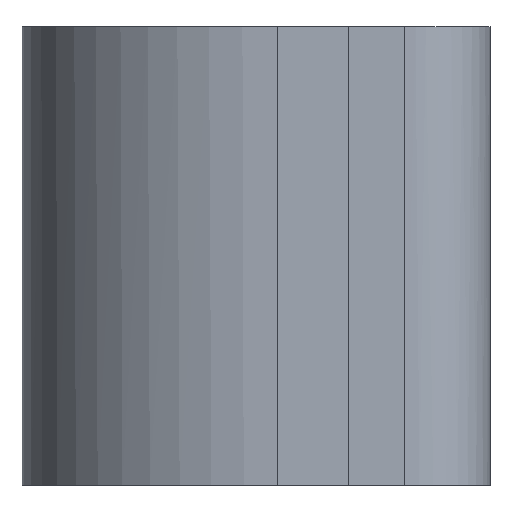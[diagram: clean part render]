
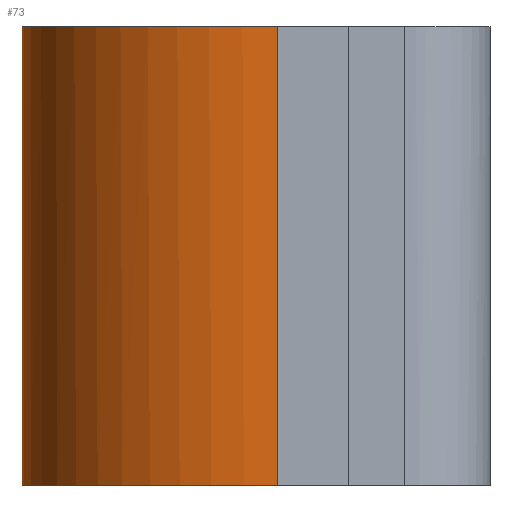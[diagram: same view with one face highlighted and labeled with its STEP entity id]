
A CAD part, left-side view. The second image highlights one B-rep face of the part: STEP entity #73.
In plain terms, the highlighted free-form (B-spline) face has degree [3, 1] with [4, 2] control points.
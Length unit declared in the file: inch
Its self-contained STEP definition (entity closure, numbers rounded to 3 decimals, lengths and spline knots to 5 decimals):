
#73=ADVANCED_FACE('',(#145),#146,.T.);
#145=FACE_OUTER_BOUND('',#270,.T.);
#146=B_SPLINE_SURFACE_WITH_KNOTS('',3,1,((#271,#272),(#273,#274),(#275,#276),(#277,#278)),.UNSPECIFIED.,.F.,.F.,.F.,(4,4),(2,2),(0.0,1.0),(0.0,0.8125),.UNSPECIFIED.);
#270=EDGE_LOOP('',(#412,#413,#414,#415));
#271=CARTESIAN_POINT('',(0.45208,0.57765,0.0));
#272=CARTESIAN_POINT('',(0.45208,0.57765,0.8125));
#273=CARTESIAN_POINT('',(0.2024,0.57765,0.0));
#274=CARTESIAN_POINT('',(0.2024,0.57765,0.8125));
#275=CARTESIAN_POINT('',(0.0,0.37526,0.0));
#276=CARTESIAN_POINT('',(0.0,0.37526,0.8125));
#277=CARTESIAN_POINT('',(0.0,0.12558,0.0));
#278=CARTESIAN_POINT('',(0.0,0.12558,0.8125));
#412=ORIENTED_EDGE('',*,*,#490,.T.);
#413=ORIENTED_EDGE('',*,*,#483,.F.);
#414=ORIENTED_EDGE('',*,*,#524,.T.);
#415=ORIENTED_EDGE('',*,*,#530,.T.);
#483=EDGE_CURVE('',#572,#567,#574,.T.);
#490=EDGE_CURVE('',#585,#567,#586,.T.);
#524=EDGE_CURVE('',#572,#631,#634,.T.);
#530=EDGE_CURVE('',#631,#585,#641,.T.);
#567=VERTEX_POINT('',#698);
#572=VERTEX_POINT('',#707);
#574=LINE('',#712,#713);
#585=VERTEX_POINT('',#732);
#586=B_SPLINE_CURVE_WITH_KNOTS('',3,(#733,#734,#735,#736),.UNSPECIFIED.,.F.,.F.,(4,4),(-1.0,-0.0),.UNSPECIFIED.);
#631=VERTEX_POINT('',#822);
#634=B_SPLINE_CURVE_WITH_KNOTS('',3,(#826,#827,#828,#829),.UNSPECIFIED.,.F.,.F.,(4,4),(0.0,1.0),.UNSPECIFIED.);
#641=LINE('',#840,#841);
#698=CARTESIAN_POINT('',(0.45208,0.57765,0.8125));
#707=CARTESIAN_POINT('',(0.45208,0.57765,0.0));
#712=CARTESIAN_POINT('',(0.45208,0.57765,0.0));
#713=VECTOR('',#865,1.0);
#732=CARTESIAN_POINT('',(0.0,0.12558,0.8125));
#733=CARTESIAN_POINT('',(0.0,0.12558,0.8125));
#734=CARTESIAN_POINT('',(0.0,0.37526,0.8125));
#735=CARTESIAN_POINT('',(0.2024,0.57765,0.8125));
#736=CARTESIAN_POINT('',(0.45208,0.57765,0.8125));
#822=CARTESIAN_POINT('',(0.0,0.12558,0.0));
#826=CARTESIAN_POINT('',(0.45208,0.57765,0.0));
#827=CARTESIAN_POINT('',(0.2024,0.57765,0.0));
#828=CARTESIAN_POINT('',(0.0,0.37526,0.0));
#829=CARTESIAN_POINT('',(0.0,0.12558,0.0));
#840=CARTESIAN_POINT('',(0.0,0.12558,0.0));
#841=VECTOR('',#887,1.0);
#865=DIRECTION('',(0.0,0.0,1.0));
#887=DIRECTION('',(0.0,0.0,1.0));
